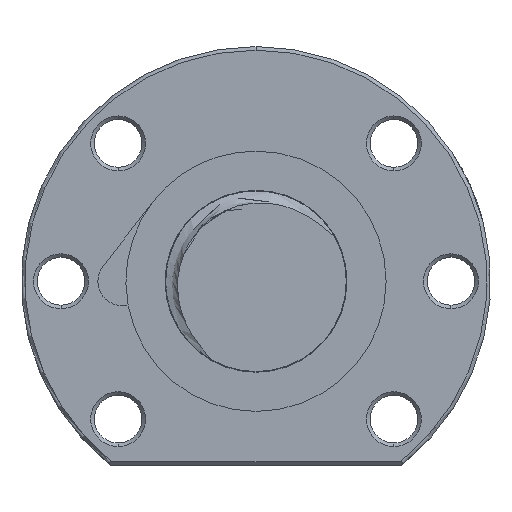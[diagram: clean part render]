
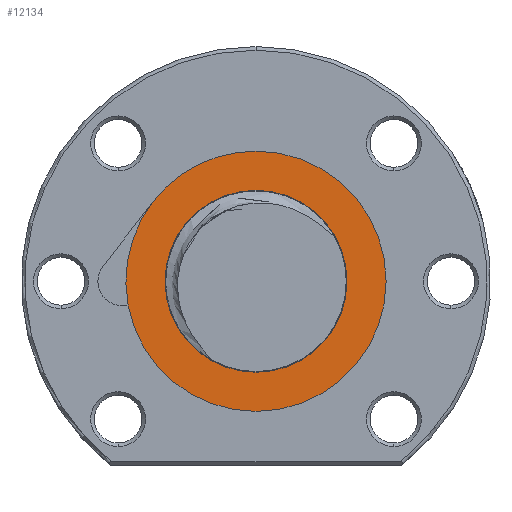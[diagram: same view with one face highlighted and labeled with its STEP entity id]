
A CAD part, left-side view. The second image highlights one B-rep face of the part: STEP entity #12134.
In plain terms, the highlighted planar face has unit normal (-1, 0, 0).
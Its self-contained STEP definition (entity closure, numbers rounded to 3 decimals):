
#7 = CARTESIAN_POINT ( 'NONE',  ( -110.8, 0., 18.019 ) ) ;
#8 = CARTESIAN_POINT ( 'NONE',  ( -110.8, 0., -18.019 ) ) ;
#9 = DIRECTION ( 'NONE',  ( 0., 0., 1. ) ) ;
#10 = DIRECTION ( 'NONE',  ( -1., 0., 0. ) ) ;
#11 = AXIS2_PLACEMENT_3D ( 'NONE', #18, #10, #9 ) ;
#12 = CIRCLE ( 'NONE', #11, 18.019 ) ;
#18 = CARTESIAN_POINT ( 'NONE',  ( -110.8, 0., 0. ) ) ;
#173 = CARTESIAN_POINT ( 'NONE',  ( -110.8, 14.243, 11.038 ) ) ;
#174 = DIRECTION ( 'NONE',  ( 0., 0., 1. ) ) ;
#175 = DIRECTION ( 'NONE',  ( -1., 0., 0. ) ) ;
#176 = AXIS2_PLACEMENT_3D ( 'NONE', #182, #175, #174 ) ;
#177 = CIRCLE ( 'NONE', #176, 18.019 ) ;
#182 = CARTESIAN_POINT ( 'NONE',  ( -110.8, 0., 0. ) ) ;
#229 = DIRECTION ( 'NONE',  ( 0., 0., 1. ) ) ;
#230 = DIRECTION ( 'NONE',  ( -1., 0., 0. ) ) ;
#231 = AXIS2_PLACEMENT_3D ( 'NONE', #237, #230, #229 ) ;
#232 = CIRCLE ( 'NONE', #231, 18.019 ) ;
#237 = CARTESIAN_POINT ( 'NONE',  ( -110.8, 0., 0. ) ) ;
#1057 = CARTESIAN_POINT ( 'NONE',  ( -110.8, 0., 12.6 ) ) ;
#1058 = DIRECTION ( 'NONE',  ( 0., 0., 1. ) ) ;
#1059 = DIRECTION ( 'NONE',  ( -1., 0., 0. ) ) ;
#1060 = CARTESIAN_POINT ( 'NONE',  ( -110.8, 0., 0. ) ) ;
#1061 = AXIS2_PLACEMENT_3D ( 'NONE', #1060, #1059, #1058 ) ;
#1062 = CIRCLE ( 'NONE', #1061, 12.6 ) ;
#1063 = CARTESIAN_POINT ( 'NONE',  ( -110.8, 0., -12.6 ) ) ;
#1596 = DIRECTION ( 'NONE',  ( 0., 0., 1. ) ) ;
#1597 = DIRECTION ( 'NONE',  ( -1., 0., 0. ) ) ;
#1598 = CARTESIAN_POINT ( 'NONE',  ( -110.8, 0., 0. ) ) ;
#1599 = AXIS2_PLACEMENT_3D ( 'NONE', #1598, #1597, #1596 ) ;
#1600 = CIRCLE ( 'NONE', #1599, 18.019 ) ;
#1601 = DIRECTION ( 'NONE',  ( 0., 0., 1. ) ) ;
#1602 = DIRECTION ( 'NONE',  ( -1., 0., 0. ) ) ;
#1603 = CARTESIAN_POINT ( 'NONE',  ( -110.8, 0., 12.6 ) ) ;
#1604 = AXIS2_PLACEMENT_3D ( 'NONE', #1603, #1602, #1601 ) ;
#1605 = PLANE ( 'NONE',  #1604 ) ;
#1606 = FACE_BOUND ( 'NONE', #12062, .T. ) ;
#1607 = FACE_OUTER_BOUND ( 'NONE', #12135, .T. ) ;
#1608 = DIRECTION ( 'NONE',  ( 0., 0., 1. ) ) ;
#1609 = DIRECTION ( 'NONE',  ( -1., 0., 0. ) ) ;
#1610 = CARTESIAN_POINT ( 'NONE',  ( -110.8, 0., 0. ) ) ;
#1611 = AXIS2_PLACEMENT_3D ( 'NONE', #1610, #1609, #1608 ) ;
#1612 = CIRCLE ( 'NONE', #1611, 12.6 ) ;
#11568 = VERTEX_POINT ( 'NONE', #13923 ) ;
#11687 = EDGE_CURVE ( 'NONE', #11568, #11726, #232, .T. ) ;
#11725 = EDGE_CURVE ( 'NONE', #11726, #11727, #12, .T. ) ;
#11726 = VERTEX_POINT ( 'NONE', #8 ) ;
#11727 = VERTEX_POINT ( 'NONE', #7 ) ;
#11739 = EDGE_CURVE ( 'NONE', #11727, #11740, #177, .T. ) ;
#11740 = VERTEX_POINT ( 'NONE', #173 ) ;
#11826 = VERTEX_POINT ( 'NONE', #1063 ) ;
#11828 = EDGE_CURVE ( 'NONE', #11826, #11829, #1062, .T. ) ;
#11829 = VERTEX_POINT ( 'NONE', #1057 ) ;
#12060 = ORIENTED_EDGE ( 'NONE', *, *, #11725, .T. ) ;
#12061 = ORIENTED_EDGE ( 'NONE', *, *, #11739, .T. ) ;
#12062 = EDGE_LOOP ( 'NONE', ( #12063, #12064 ) ) ;
#12063 = ORIENTED_EDGE ( 'NONE', *, *, #12133, .F. ) ;
#12064 = ORIENTED_EDGE ( 'NONE', *, *, #11828, .F. ) ;
#12133 = EDGE_CURVE ( 'NONE', #11829, #11826, #1612, .T. ) ;
#12134 = ADVANCED_FACE ( 'NONE', ( #1607, #1606 ), #1605, .T. ) ;
#12135 = EDGE_LOOP ( 'NONE', ( #12136, #12138, #12060, #12061 ) ) ;
#12136 = ORIENTED_EDGE ( 'NONE', *, *, #12137, .T. ) ;
#12137 = EDGE_CURVE ( 'NONE', #11740, #11568, #1600, .T. ) ;
#12138 = ORIENTED_EDGE ( 'NONE', *, *, #11687, .T. ) ;
#13923 = CARTESIAN_POINT ( 'NONE',  ( -110.8, 17.717, -3.285 ) ) ;
